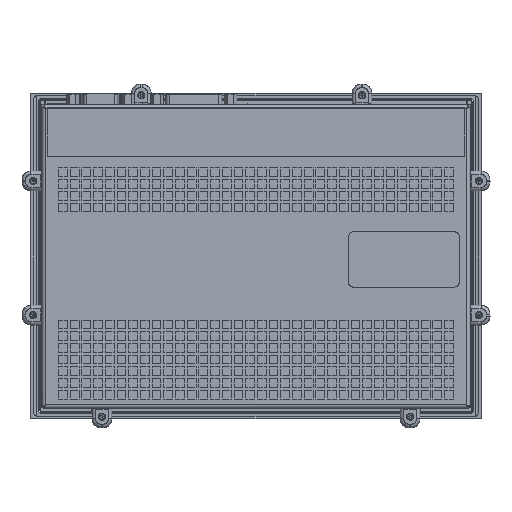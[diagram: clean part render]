
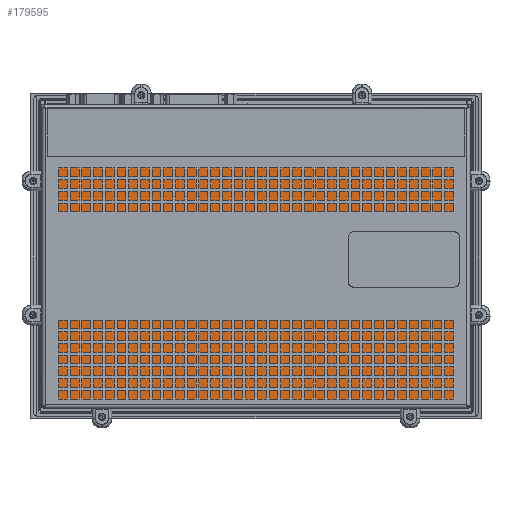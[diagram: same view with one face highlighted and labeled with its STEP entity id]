
A CAD part, front view. The second image highlights one B-rep face of the part: STEP entity #179595.
In plain terms, the highlighted planar face has unit normal (0, -1, 0).
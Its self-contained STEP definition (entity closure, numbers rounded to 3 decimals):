
#11313 = VERTEX_POINT ( 'NONE', #268759 ) ;
#13164 = LINE ( 'NONE', #118119, #86007 ) ;
#28342 = EDGE_CURVE ( 'NONE', #49914, #187789, #115917, .T. ) ;
#44166 = EDGE_CURVE ( 'NONE', #200331, #11313, #13164, .T. ) ;
#49914 = VERTEX_POINT ( 'NONE', #269130 ) ;
#54357 = ORIENTED_EDGE ( 'NONE', *, *, #172550, .T. ) ;
#63544 = CARTESIAN_POINT ( 'NONE',  ( -95.395, -47.2, -0.31 ) ) ;
#73057 = FACE_OUTER_BOUND ( 'NONE', #84609, .T. ) ;
#84609 = EDGE_LOOP ( 'NONE', ( #238496, #93082, #54357, #106624 ) ) ;
#86007 = VECTOR ( 'NONE', #207052, 1000. ) ;
#93082 = ORIENTED_EDGE ( 'NONE', *, *, #28342, .T. ) ;
#94361 = VECTOR ( 'NONE', #177441, 1000. ) ;
#94876 = VECTOR ( 'NONE', #192360, 1000. ) ;
#98469 = DIRECTION ( 'NONE',  ( 0., -1., 0. ) ) ;
#101309 = LINE ( 'NONE', #267525, #94361 ) ;
#106624 = ORIENTED_EDGE ( 'NONE', *, *, #44166, .T. ) ;
#115917 = LINE ( 'NONE', #212058, #285724 ) ;
#118119 = CARTESIAN_POINT ( 'NONE',  ( 0.005, -47.2, 66.84 ) ) ;
#121145 = AXIS2_PLACEMENT_3D ( 'NONE', #257260, #98469, #253461 ) ;
#167209 = CARTESIAN_POINT ( 'NONE',  ( 95.405, -47.2, 66.84 ) ) ;
#172550 = EDGE_CURVE ( 'NONE', #187789, #200331, #101309, .T. ) ;
#177441 = DIRECTION ( 'NONE',  ( 0., 0., 1. ) ) ;
#179595 = ADVANCED_FACE ( 'NONE', ( #73057 ), #235046, .T. ) ;
#187789 = VERTEX_POINT ( 'NONE', #229951 ) ;
#192360 = DIRECTION ( 'NONE',  ( 0., 0., -1. ) ) ;
#200331 = VERTEX_POINT ( 'NONE', #167209 ) ;
#207052 = DIRECTION ( 'NONE',  ( -1., 0., 0. ) ) ;
#212058 = CARTESIAN_POINT ( 'NONE',  ( 0.005, -47.2, -67.46 ) ) ;
#229951 = CARTESIAN_POINT ( 'NONE',  ( 95.405, -47.2, -67.46 ) ) ;
#230525 = EDGE_CURVE ( 'NONE', #11313, #49914, #285583, .T. ) ;
#235046 = PLANE ( 'NONE',  #121145 ) ;
#238496 = ORIENTED_EDGE ( 'NONE', *, *, #230525, .T. ) ;
#253461 = DIRECTION ( 'NONE',  ( 0., 0., -1. ) ) ;
#256724 = DIRECTION ( 'NONE',  ( 1., 0., 0. ) ) ;
#257260 = CARTESIAN_POINT ( 'NONE',  ( 0.005, -47.2, -0.31 ) ) ;
#267525 = CARTESIAN_POINT ( 'NONE',  ( 95.405, -47.2, -0.31 ) ) ;
#268759 = CARTESIAN_POINT ( 'NONE',  ( -95.395, -47.2, 66.84 ) ) ;
#269130 = CARTESIAN_POINT ( 'NONE',  ( -95.395, -47.2, -67.46 ) ) ;
#285583 = LINE ( 'NONE', #63544, #94876 ) ;
#285724 = VECTOR ( 'NONE', #256724, 1000. ) ;
